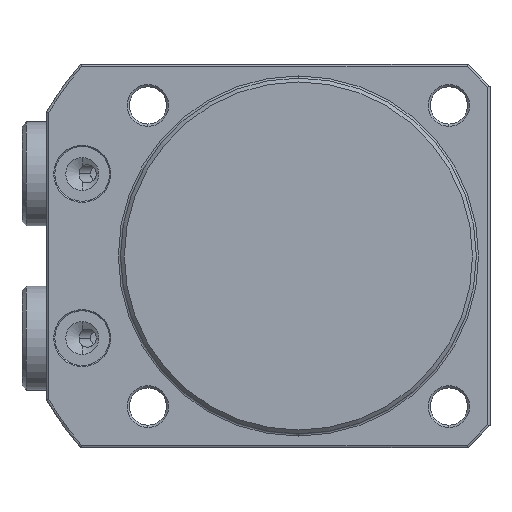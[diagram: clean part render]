
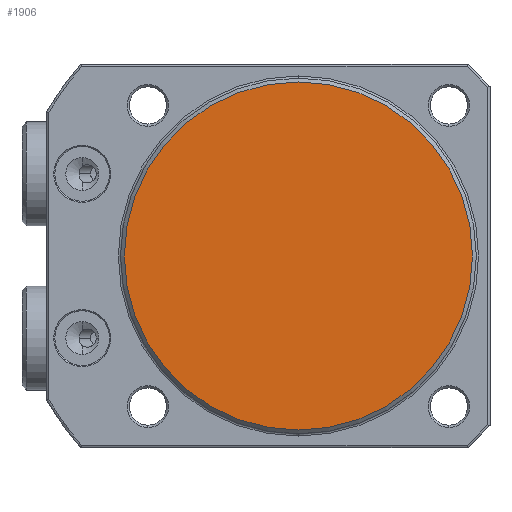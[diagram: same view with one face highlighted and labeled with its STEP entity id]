
A CAD part, front view. The second image highlights one B-rep face of the part: STEP entity #1906.
In plain terms, the highlighted planar face has unit normal (0, -1, 0) as drawn and (-1, 0, 0) by its records, which use the part's own axes.
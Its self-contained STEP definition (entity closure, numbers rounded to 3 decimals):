
#1696=PLANE('',#7298);
#1906=ADVANCED_FACE('',(#2376),#1696,.F.);
#2376=FACE_OUTER_BOUND('',#2714,.T.);
#2714=EDGE_LOOP('',(#4259));
#4259=ORIENTED_EDGE('',*,*,#6084,.T.);
#5464=VERTEX_POINT('',#10100);
#6084=EDGE_CURVE('',#5464,#5464,#6791,.T.);
#6791=CIRCLE('',#7297,31.8);
#7297=AXIS2_PLACEMENT_3D('',#10099,#8463,#8464);
#7298=AXIS2_PLACEMENT_3D('',#10101,#8465,#8466);
#8463=DIRECTION('',(-1.,0.,0.));
#8464=DIRECTION('',(0.,0.,-1.));
#8465=DIRECTION('',(1.,0.,0.));
#8466=DIRECTION('',(0.,0.,1.));
#10099=CARTESIAN_POINT('',(0.,0.,0.));
#10100=CARTESIAN_POINT('',(0.,0.,-31.8));
#10101=CARTESIAN_POINT('',(0.,0.,0.));
